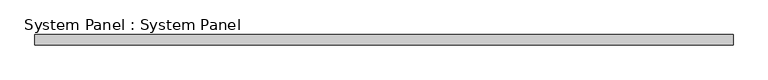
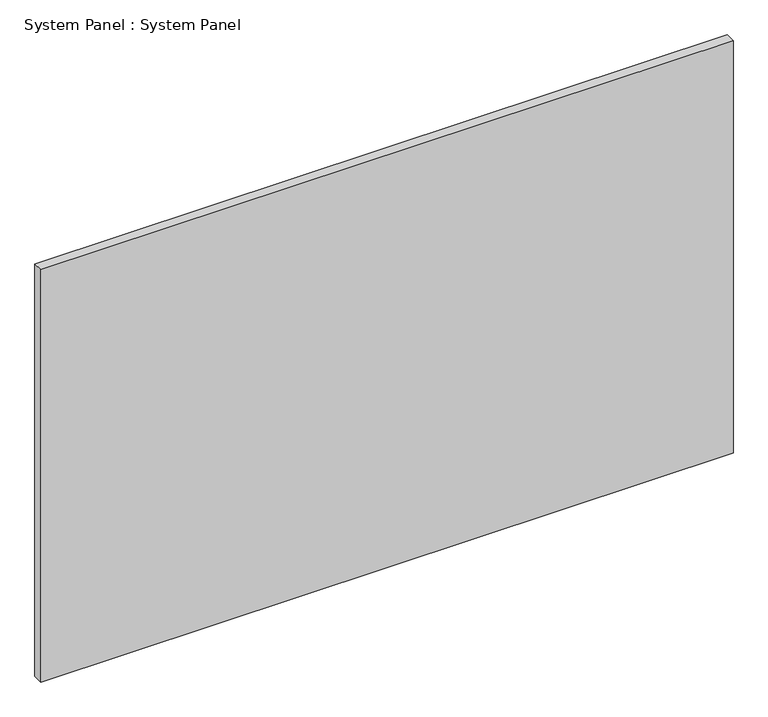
"""IFC4 building model written with IfcOpenShell, lengths in millimetres: plate geometry, System Panel : System Panel."""

from ifc_helpers import new_model, si_unit, origin, origin_with_axes, place, context, project, spatial, polyline, outline, extrude, source, transform, mapped, element, save


def system_panel_system_panel_1d26f707(model_context):
    return source(origin(), model_context, "Body", "SweptSolid", [
        extrude(outline(polyline([(866.775, 19.05), (-866.775, 19.05), (-866.775, 44.45), (866.775, 44.45), (866.775, 19.05)])), origin_with_axes(), (0.0, 0.0, 1.0), 1092.2),
    ])


if __name__ == "__main__":
    model = new_model("IFC4")
    model_context = context("Model", 3, world=origin())
    ifc_project = project(units=[si_unit("LENGTHUNIT", "METRE", prefix="MILLI")], contexts=[model_context])
    site = spatial("IfcSite", under=ifc_project)
    building = spatial("IfcBuilding", under=site)
    placement = place(None, origin())
    system_panel_system_panel_shape = system_panel_system_panel_1d26f707(model_context)
    element("IfcPlate", 1, ObjectType="System Panel : System Panel", at=placement, inside=building, context=model_context, shape_type="MappedRepresentation", body=[
        mapped(system_panel_system_panel_shape, transform((0.0, 0.0, 0.0), x_axis=(1.0, 0.0, 0.0), y_axis=(0.0, 1.0, 0.0), z_axis=(0.0, 0.0, 1.0))),
    ])
    save(model, "model.ifc")
